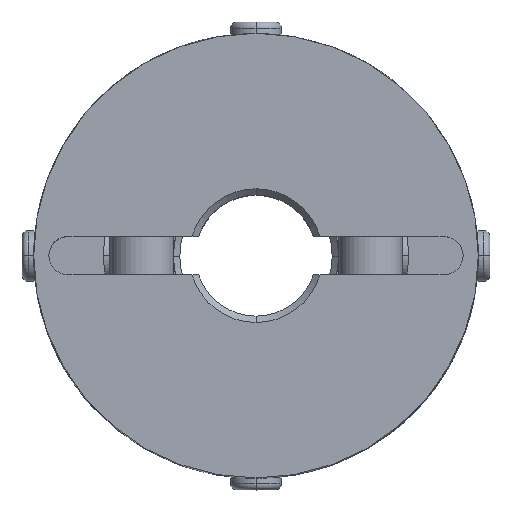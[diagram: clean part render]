
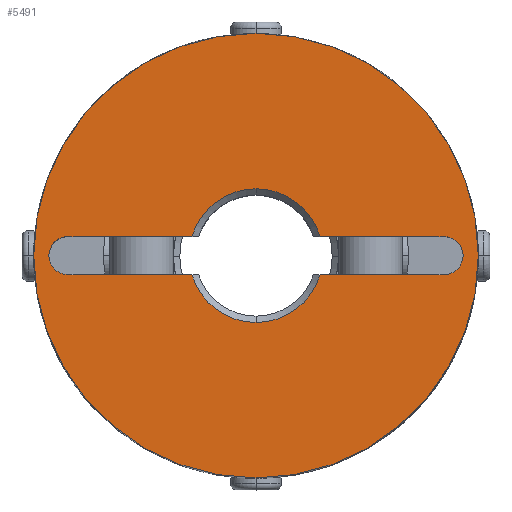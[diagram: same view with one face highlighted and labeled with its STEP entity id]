
A CAD part, top view. The second image highlights one B-rep face of the part: STEP entity #5491.
In plain terms, the highlighted planar face has unit normal (0, 0, 1).
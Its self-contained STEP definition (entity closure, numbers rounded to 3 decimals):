
#981=CARTESIAN_POINT('',(0.,17.5,17.5));
#982=VERTEX_POINT('',#981);
#989=CARTESIAN_POINT('',(0.,-17.5,17.5));
#990=VERTEX_POINT('',#989);
#991=CARTESIAN_POINT('',(0.0,0.0,17.5));
#992=DIRECTION('',(0.0,0.0,-1.0));
#993=DIRECTION('',(0.0,-1.0,0.0));
#994=AXIS2_PLACEMENT_3D('',#991,#992,#993);
#995=CIRCLE('',#994,17.5);
#996=EDGE_CURVE('',#982,#990,#995,.T.);
#1311=CARTESIAN_POINT('',(15.861,1.061,17.5));
#1312=VERTEX_POINT('',#1311);
#1328=CARTESIAN_POINT('',(14.8,-1.5,17.5));
#1329=VERTEX_POINT('',#1328);
#1336=CARTESIAN_POINT('',(14.8,0.,17.5));
#1337=DIRECTION('',(0.0,0.0,1.0));
#1338=DIRECTION('',(0.707,-0.707,0.0));
#1339=AXIS2_PLACEMENT_3D('',#1336,#1337,#1338);
#1340=CIRCLE('',#1339,1.5);
#1341=EDGE_CURVE('',#1329,#1312,#1340,.T.);
#1353=CARTESIAN_POINT('',(-15.861,-1.061,17.5));
#1354=VERTEX_POINT('',#1353);
#1370=CARTESIAN_POINT('',(-14.8,1.5,17.5));
#1371=VERTEX_POINT('',#1370);
#1378=CARTESIAN_POINT('',(-14.8,0.,17.5));
#1379=DIRECTION('',(0.0,0.0,1.0));
#1380=DIRECTION('',(-0.707,0.707,0.0));
#1381=AXIS2_PLACEMENT_3D('',#1378,#1379,#1380);
#1382=CIRCLE('',#1381,1.5);
#1383=EDGE_CURVE('',#1371,#1354,#1382,.T.);
#4396=CARTESIAN_POINT('',(0.,5.262,17.5));
#4397=VERTEX_POINT('',#4396);
#4405=CARTESIAN_POINT('',(5.044,1.5,17.5));
#4406=VERTEX_POINT('',#4405);
#4420=CARTESIAN_POINT('',(0.,0.,17.5));
#4421=DIRECTION('',(0.0,0.0,1.0));
#4422=DIRECTION('',(0.0,1.0,0.0));
#4423=AXIS2_PLACEMENT_3D('',#4420,#4421,#4422);
#4424=CIRCLE('',#4423,5.263);
#4425=EDGE_CURVE('',#4406,#4397,#4424,.T.);
#4435=CARTESIAN_POINT('',(0.,-5.263,17.5));
#4436=VERTEX_POINT('',#4435);
#4452=CARTESIAN_POINT('',(-5.044,-1.5,17.5));
#4453=VERTEX_POINT('',#4452);
#4467=CARTESIAN_POINT('',(0.,0.,17.5));
#4468=DIRECTION('',(0.0,0.0,1.0));
#4469=DIRECTION('',(0.0,-1.0,0.0));
#4470=AXIS2_PLACEMENT_3D('',#4467,#4468,#4469);
#4471=CIRCLE('',#4470,5.263);
#4472=EDGE_CURVE('',#4453,#4436,#4471,.T.);
#5207=CARTESIAN_POINT('',(14.8,1.5,17.5));
#5208=VERTEX_POINT('',#5207);
#5215=CARTESIAN_POINT('',(5.044,1.5,17.5));
#5216=DIRECTION('',(1.0,0.0,0.0));
#5217=VECTOR('',#5216,9.756);
#5218=LINE('',#5215,#5217);
#5219=EDGE_CURVE('',#4406,#5208,#5218,.T.);
#5376=CARTESIAN_POINT('',(5.044,-1.5,17.5));
#5377=VERTEX_POINT('',#5376);
#5391=CARTESIAN_POINT('',(14.8,-1.5,17.5));
#5392=DIRECTION('',(-1.0,0.0,0.0));
#5393=VECTOR('',#5392,9.756);
#5394=LINE('',#5391,#5393);
#5395=EDGE_CURVE('',#1329,#5377,#5394,.T.);
#5418=CARTESIAN_POINT('',(0.,0.,17.5));
#5419=DIRECTION('',(0.0,0.0,1.0));
#5420=DIRECTION('',(0.0,-1.0,0.0));
#5421=AXIS2_PLACEMENT_3D('',#5418,#5419,#5420);
#5422=CIRCLE('',#5421,5.263);
#5423=EDGE_CURVE('',#4436,#5377,#5422,.T.);
#5430=CARTESIAN_POINT('',(0.,-1.591,17.5));
#5431=DIRECTION('',(0.0,0.0,1.0));
#5432=DIRECTION('',(0.0,-1.0,0.0));
#5433=AXIS2_PLACEMENT_3D('',#5430,#5431,#5432);
#5434=PLANE('',#5433);
#5435=CARTESIAN_POINT('',(0.0,0.0,17.5));
#5436=DIRECTION('',(0.0,0.0,-1.0));
#5437=DIRECTION('',(0.0,-1.0,0.0));
#5438=AXIS2_PLACEMENT_3D('',#5435,#5436,#5437);
#5439=CIRCLE('',#5438,17.5);
#5440=EDGE_CURVE('',#990,#982,#5439,.T.);
#5441=ORIENTED_EDGE('',*,*,#5440,.F.);
#5442=ORIENTED_EDGE('',*,*,#996,.F.);
#5443=EDGE_LOOP('',(#5441,#5442));
#5444=FACE_OUTER_BOUND('',#5443,.T.);
#5445=ORIENTED_EDGE('',*,*,#4472,.F.);
#5446=CARTESIAN_POINT('',(-14.8,-1.5,17.5));
#5447=VERTEX_POINT('',#5446);
#5448=CARTESIAN_POINT('',(-5.044,-1.5,17.5));
#5449=DIRECTION('',(-1.0,0.0,0.0));
#5450=VECTOR('',#5449,9.756);
#5451=LINE('',#5448,#5450);
#5452=EDGE_CURVE('',#4453,#5447,#5451,.T.);
#5453=ORIENTED_EDGE('',*,*,#5452,.T.);
#5454=CARTESIAN_POINT('',(-14.8,0.,17.5));
#5455=DIRECTION('',(0.0,0.0,1.0));
#5456=DIRECTION('',(-0.707,0.707,0.0));
#5457=AXIS2_PLACEMENT_3D('',#5454,#5455,#5456);
#5458=CIRCLE('',#5457,1.5);
#5459=EDGE_CURVE('',#1354,#5447,#5458,.T.);
#5460=ORIENTED_EDGE('',*,*,#5459,.F.);
#5461=ORIENTED_EDGE('',*,*,#1383,.F.);
#5462=CARTESIAN_POINT('',(-5.044,1.5,17.5));
#5463=VERTEX_POINT('',#5462);
#5464=CARTESIAN_POINT('',(-14.8,1.5,17.5));
#5465=DIRECTION('',(1.0,0.0,0.0));
#5466=VECTOR('',#5465,9.756);
#5467=LINE('',#5464,#5466);
#5468=EDGE_CURVE('',#1371,#5463,#5467,.T.);
#5469=ORIENTED_EDGE('',*,*,#5468,.T.);
#5470=CARTESIAN_POINT('',(0.,0.,17.5));
#5471=DIRECTION('',(0.0,0.0,1.0));
#5472=DIRECTION('',(0.0,1.0,0.0));
#5473=AXIS2_PLACEMENT_3D('',#5470,#5471,#5472);
#5474=CIRCLE('',#5473,5.263);
#5475=EDGE_CURVE('',#4397,#5463,#5474,.T.);
#5476=ORIENTED_EDGE('',*,*,#5475,.F.);
#5477=ORIENTED_EDGE('',*,*,#4425,.F.);
#5478=ORIENTED_EDGE('',*,*,#5219,.T.);
#5479=CARTESIAN_POINT('',(14.8,0.,17.5));
#5480=DIRECTION('',(0.0,0.0,1.0));
#5481=DIRECTION('',(0.707,-0.707,0.0));
#5482=AXIS2_PLACEMENT_3D('',#5479,#5480,#5481);
#5483=CIRCLE('',#5482,1.5);
#5484=EDGE_CURVE('',#1312,#5208,#5483,.T.);
#5485=ORIENTED_EDGE('',*,*,#5484,.F.);
#5486=ORIENTED_EDGE('',*,*,#1341,.F.);
#5487=ORIENTED_EDGE('',*,*,#5395,.T.);
#5488=ORIENTED_EDGE('',*,*,#5423,.F.);
#5489=EDGE_LOOP('',(#5445,#5453,#5460,#5461,#5469,#5476,#5477,#5478,#5485,#5486,#5487,#5488));
#5490=FACE_BOUND('',#5489,.T.);
#5491=ADVANCED_FACE('',(#5444,#5490),#5434,.T.);
